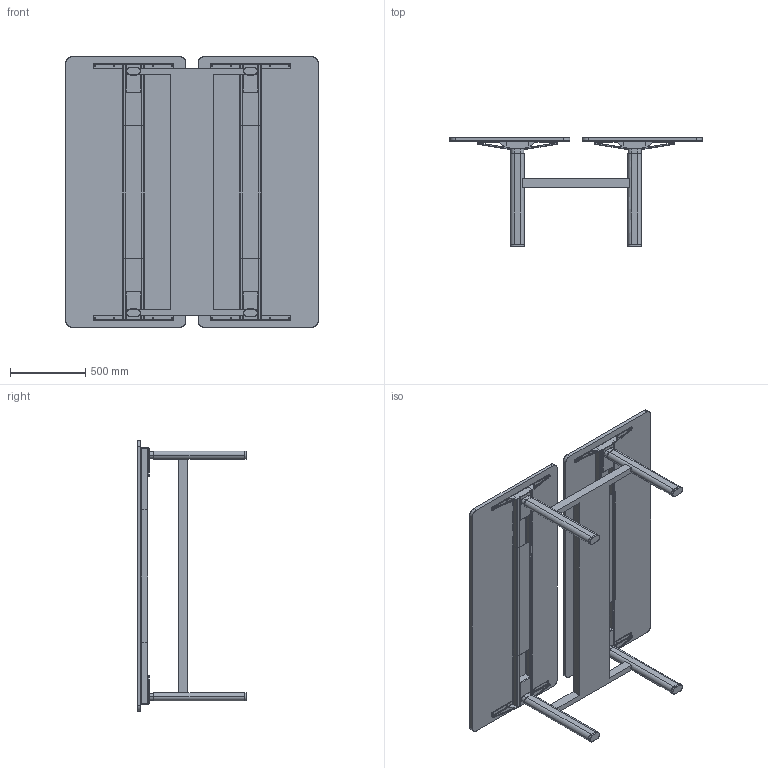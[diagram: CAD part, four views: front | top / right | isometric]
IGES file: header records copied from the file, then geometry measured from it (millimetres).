
Start section: SolidWorks IGES file using analytic representation for surfaces
Global section: file name: C:\Users\simone.cerana\OneDrive - Gruppo Tecno\Desktop\CHINA\DISEGNI DI SERIE\ASSIEMI LISTINO\AXIS LISTINO\AX1816ST.IGS; native system: SolidWorks 2024; preprocessor: SolidWorks 2024; author: simone.cerana; date: 260508.091835; units: millimetre
Bounding box: 1680 x 729.39 x 1800 mm (x, y, z)
Surface area: 9519469 mm2 (no closed solid volume)
Topology: 0 solids, 0 shells, 542 faces, 6352 edges, 6344 vertices
Faces by surface type: revolution 272, bspline 270
